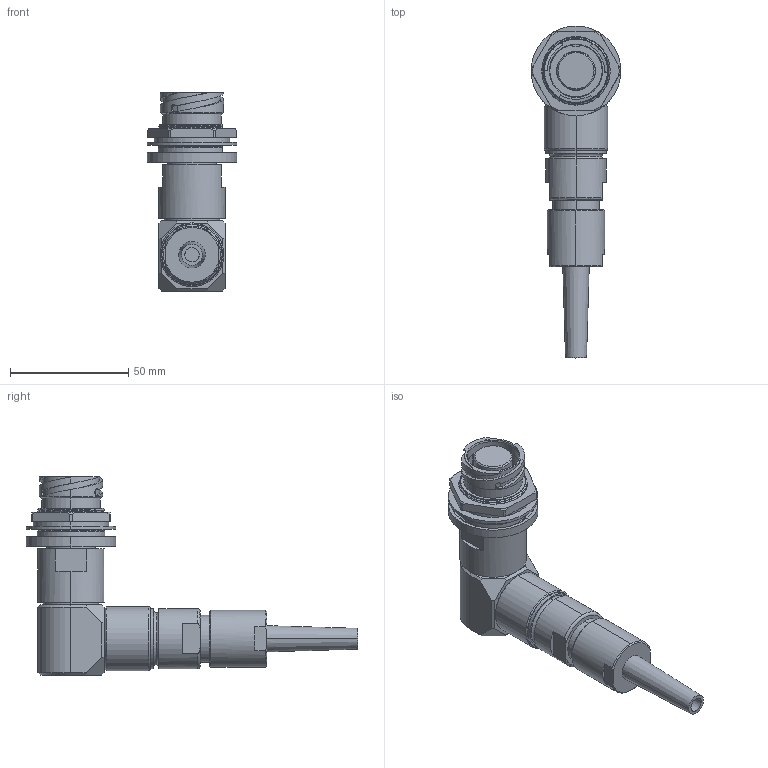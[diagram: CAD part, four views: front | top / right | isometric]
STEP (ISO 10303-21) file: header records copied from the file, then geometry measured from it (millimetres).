
FILE_DESCRIPTION (( 'STEP AP214' ), '1' );
FILE_NAME ('QLINK90-RJBX-15XX-SXXX-RA.STEP', '2025-12-16T16:55:44', ( '' ), ( '' ), 'SwSTEP 2.0', 'SolidWorks 2024', '' );
FILE_SCHEMA (( 'AUTOMOTIVE_DESIGN' ));
Length unit declared in the file: millimetre
Products named in the file (1): QLINK90-RJBX-15XX-SXXX-RA
Bounding box: 37.85 x 140.01 x 83.69 mm (x, y, z)
Volume: 86723.3 mm3; surface area: 26278.7 mm2
Topology: 2 solids, 4 shells, 329 faces, 820 edges, 527 vertices
Faces by surface type: cylinder 104, plane 82, cone 63, bspline 61, torus 19
Entity records: 30160 total; most frequent: CARTESIAN_POINT 22981, ORIENTED_EDGE 1640, DIRECTION 1339, EDGE_CURVE 820, AXIS2_PLACEMENT_3D 537, VERTEX_POINT 527, EDGE_LOOP 359, ADVANCED_FACE 329
